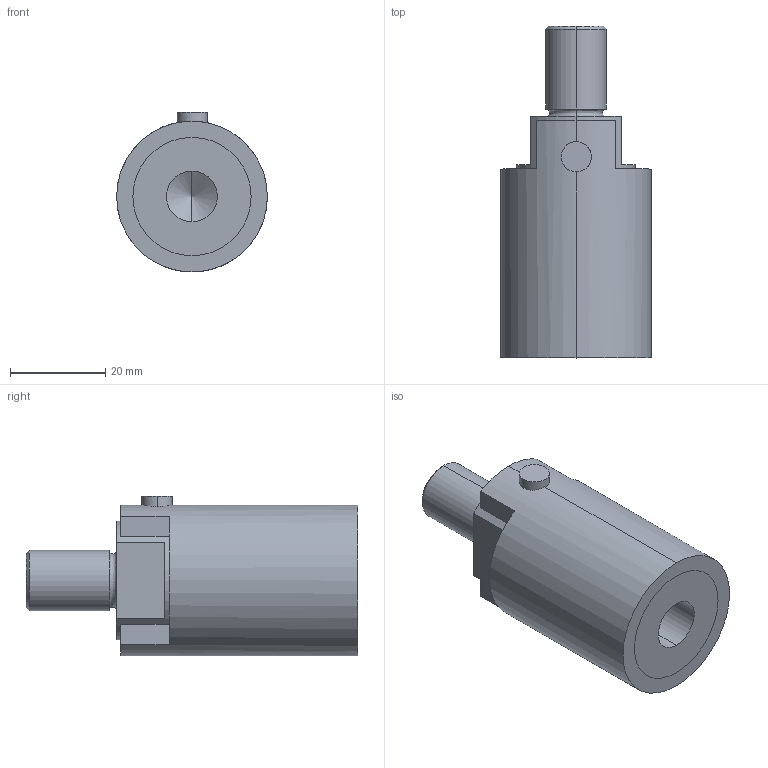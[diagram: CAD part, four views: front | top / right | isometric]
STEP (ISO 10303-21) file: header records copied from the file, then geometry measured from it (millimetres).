
FILE_DESCRIPTION (( 'STEP AP214' ), '1' );
FILE_NAME ('SS1122-1K Assembly.STEP', '2014-05-08T13:55:18', ( '' ), ( '' ), 'SwSTEP 2.0', 'SolidWorks 2008', '' );
FILE_SCHEMA (( 'AUTOMOTIVE_DESIGN' ));
Length unit declared in the file: inch
Products named in the file (1): SS1122-1K Assembly
Bounding box: 31.75 x 69.85 x 33.67 mm (x, y, z)
Volume: 38058.6 mm3; surface area: 14972.6 mm2
Topology: 2 solids, 2 shells, 35 faces, 87 edges, 55 vertices
Faces by surface type: plane 17, cylinder 12, cone 4, bspline 2
Entity records: 1774 total; most frequent: CARTESIAN_POINT 436, DIRECTION 185, ORIENTED_EDGE 170, EDGE_CURVE 85, AXIS2_PLACEMENT_3D 72, VERTEX_POINT 55, VECTOR 41, LINE 41
